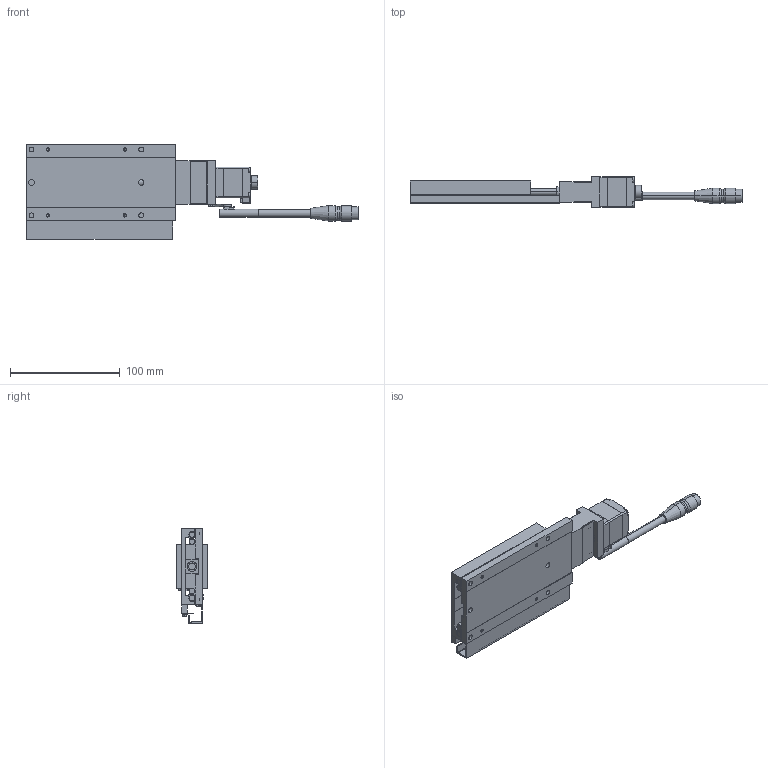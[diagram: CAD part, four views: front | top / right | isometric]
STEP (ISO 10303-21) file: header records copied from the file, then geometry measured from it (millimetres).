
FILE_DESCRIPTION(('STEP AP203'),'1');
FILE_NAME('C:/3D-Trans/3D_PG750T-R□-C+231013.step','2023-10-13T07:23:46',(' '),(' '),'Spatial InterOp 3D',' ',' ');
FILE_SCHEMA(('CONFIG_CONTROL_DESIGN'));
Length unit declared in the file: millimetre
Products named in the file (6): 1; 2; 3; 4; 5; 6
Bounding box: 302.5 x 28 x 87.4 mm (x, y, z)
Volume: 186491.5 mm3; surface area: 85213.4 mm2
Topology: 6 solids, 6 shells, 664 faces, 1659 edges, 1047 vertices
Faces by surface type: plane 364, cylinder 218, cone 82
Entity records: 19925 total; most frequent: DIRECTION 3525, CARTESIAN_POINT 3356, ORIENTED_EDGE 3278, EDGE_CURVE 1639, AXIS2_PLACEMENT_3D 1216, LINE 1093, VECTOR 1093, VERTEX_POINT 1047
